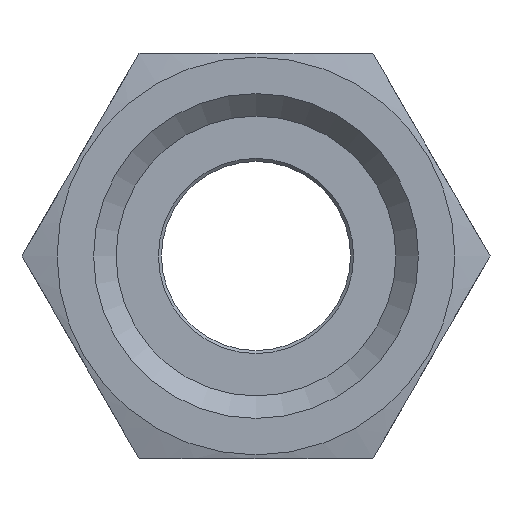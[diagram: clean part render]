
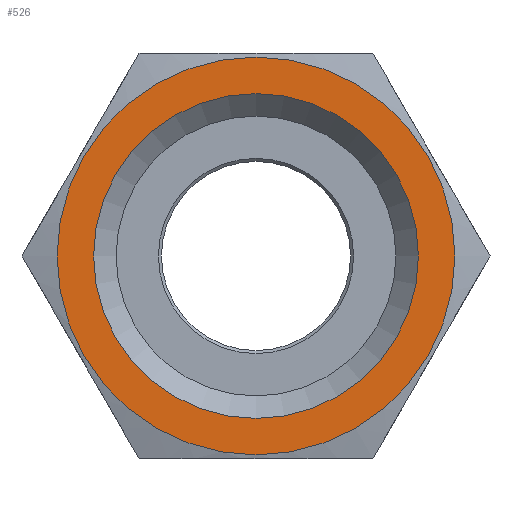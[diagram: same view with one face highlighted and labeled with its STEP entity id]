
A CAD part, front view. The second image highlights one B-rep face of the part: STEP entity #526.
In plain terms, the highlighted planar face has unit normal (0, -1, 0).
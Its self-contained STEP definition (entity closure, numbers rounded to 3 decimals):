
#32=FACE_BOUND('',#151,.T.);
#37=PLANE('',#611);
#117=FACE_OUTER_BOUND('',#150,.T.);
#150=EDGE_LOOP('',(#422,#423));
#151=EDGE_LOOP('',(#424));
#201=CIRCLE('',#610,10.82);
#202=CIRCLE('',#612,13.25);
#203=CIRCLE('',#613,13.25);
#242=VERTEX_POINT('',#896);
#243=VERTEX_POINT('',#900);
#244=VERTEX_POINT('',#901);
#309=EDGE_CURVE('',#242,#242,#201,.T.);
#310=EDGE_CURVE('',#243,#244,#202,.T.);
#311=EDGE_CURVE('',#244,#243,#203,.T.);
#422=ORIENTED_EDGE('',*,*,#310,.T.);
#423=ORIENTED_EDGE('',*,*,#311,.T.);
#424=ORIENTED_EDGE('',*,*,#309,.F.);
#526=ADVANCED_FACE('',(#117,#32),#37,.T.);
#610=AXIS2_PLACEMENT_3D('',#898,#744,#745);
#611=AXIS2_PLACEMENT_3D('',#899,#746,#747);
#612=AXIS2_PLACEMENT_3D('',#902,#748,#749);
#613=AXIS2_PLACEMENT_3D('',#903,#750,#751);
#744=DIRECTION('center_axis',(0.,-1.,0.));
#745=DIRECTION('ref_axis',(0.,0.,1.));
#746=DIRECTION('center_axis',(0.,-1.,0.));
#747=DIRECTION('ref_axis',(0.,0.,-1.));
#748=DIRECTION('center_axis',(0.,-1.,0.));
#749=DIRECTION('ref_axis',(1.,0.,0.));
#750=DIRECTION('center_axis',(0.,-1.,0.));
#751=DIRECTION('ref_axis',(1.,0.,0.));
#896=CARTESIAN_POINT('',(0.,-40.,-10.82));
#898=CARTESIAN_POINT('Origin',(0.,-40.,0.));
#899=CARTESIAN_POINT('Origin',(0.,-40.,-9.32));
#900=CARTESIAN_POINT('',(0.,-40.,-13.25));
#901=CARTESIAN_POINT('',(0.,-40.,13.25));
#902=CARTESIAN_POINT('Origin',(0.,-40.,0.));
#903=CARTESIAN_POINT('Origin',(0.,-40.,0.));
